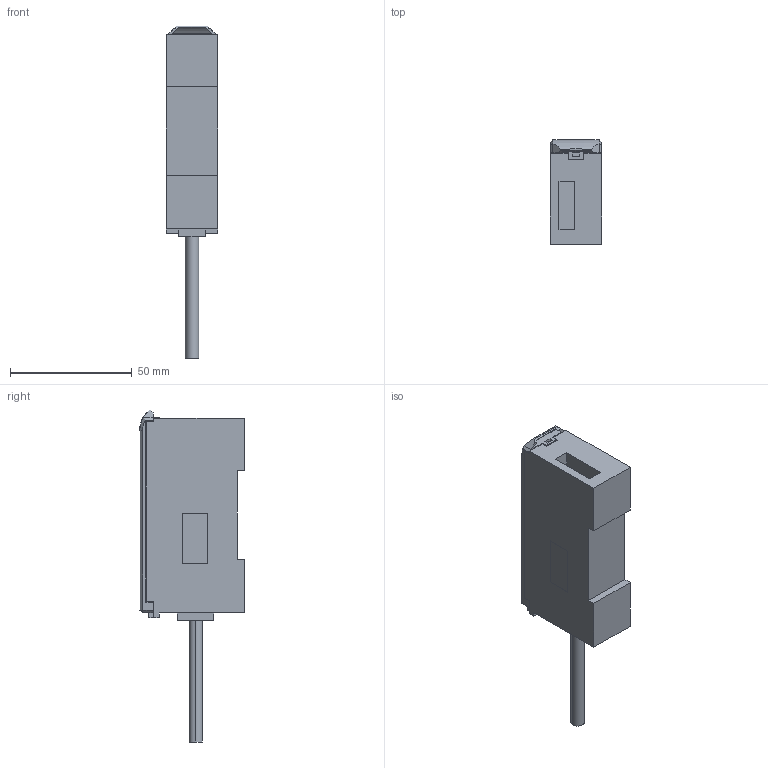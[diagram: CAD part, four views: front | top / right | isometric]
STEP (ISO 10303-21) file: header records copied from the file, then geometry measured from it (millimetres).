
FILE_DESCRIPTION (( 'STEP AP203' ), '1' );
FILE_NAME ('hg-sc101.STEP', '2015-10-02T11:39:43', ( '' ), ( '' ), 'SwSTEP 2.0', 'SolidWorks 2010', '' );
FILE_SCHEMA (( 'CONFIG_CONTROL_DESIGN' ));
Length unit declared in the file: millimetre
Products named in the file (4): hg-sc1_cover; hg-sc101; hg-sc1_cap
Assembly tree (3 placements, depth 2):
  hg-sc101
    hg-sc101
    hg-sc1_cover
    hg-sc1_cap
Bounding box: 21.1 x 43.07 x 136.4 mm (x, y, z)
Volume: 67111.2 mm3; surface area: 18588.9 mm2
Topology: 3 solids, 3 shells, 192 faces, 494 edges, 326 vertices
Faces by surface type: plane 182, cylinder 4, torus 3, bspline 2, cone 1
Entity records: 6181 total; most frequent: CARTESIAN_POINT 1115, ORIENTED_EDGE 988, DIRECTION 879, EDGE_CURVE 494, VECTOR 463, LINE 463, VERTEX_POINT 326, EDGE_LOOP 212
